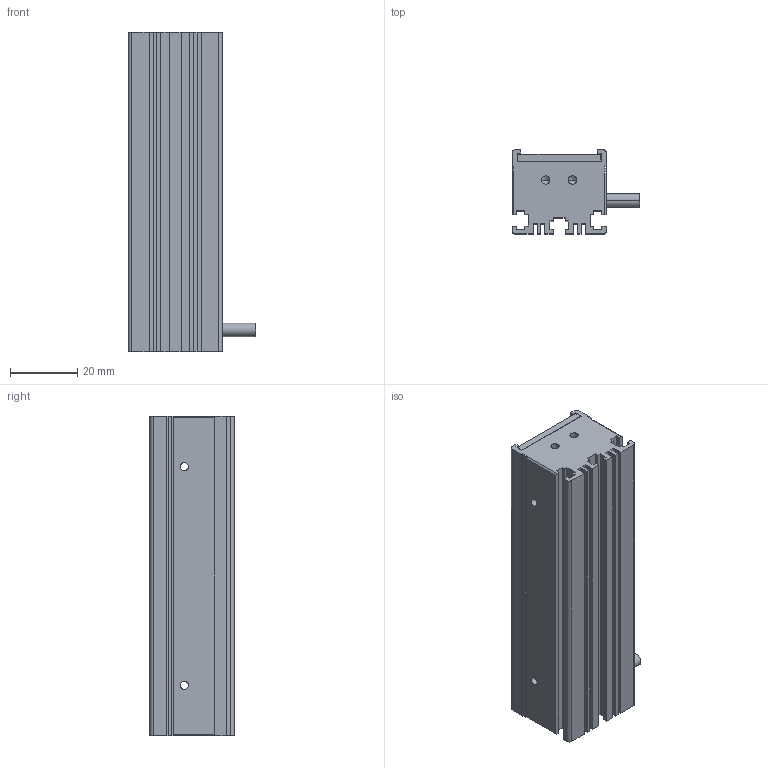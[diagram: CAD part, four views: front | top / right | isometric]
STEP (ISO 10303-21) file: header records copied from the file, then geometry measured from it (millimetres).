
FILE_DESCRIPTION (( 'STEP AP203' ), '1' );
FILE_NAME ('GTR9528-W.STEP', '2022-08-26T02:39:28', ( 'Windows User' ), ( 'P R C' ), 'SwSTEP 2.0', 'SolidWorks 2016', '' );
FILE_SCHEMA (( 'CONFIG_CONTROL_DESIGN' ));
Length unit declared in the file: millimetre
Products named in the file (1): GTR9528-W
Bounding box: 38 x 25 x 95 mm (x, y, z)
Volume: 33805.6 mm3; surface area: 26974.5 mm2
Topology: 2 solids, 2 shells, 370 faces, 936 edges, 616 vertices
Faces by surface type: plane 340, cylinder 22, cone 8
Entity records: 10943 total; most frequent: CARTESIAN_POINT 1915, ORIENTED_EDGE 1856, DIRECTION 1714, EDGE_CURVE 928, LINE 884, VECTOR 884, VERTEX_POINT 616, EDGE_LOOP 432
